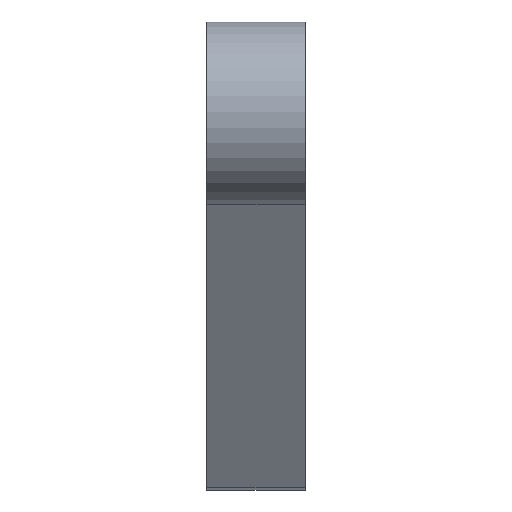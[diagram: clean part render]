
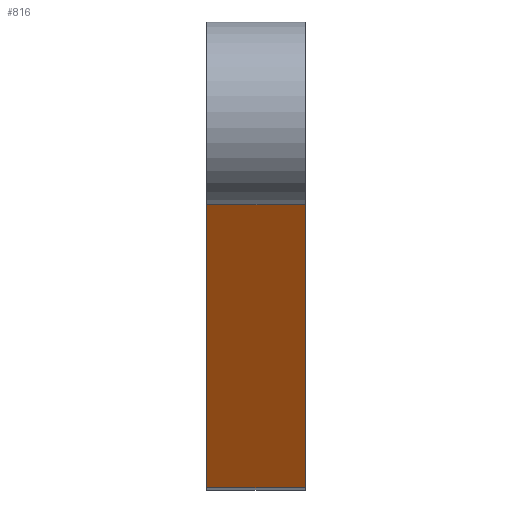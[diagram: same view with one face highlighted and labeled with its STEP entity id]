
A CAD part, left-side view. The second image highlights one B-rep face of the part: STEP entity #816.
In plain terms, the highlighted planar face has unit normal (-0.229, 0, -0.973).
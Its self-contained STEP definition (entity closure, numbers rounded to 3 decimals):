
#72 = PLANE('',#73);
#73 = AXIS2_PLACEMENT_3D('',#74,#75,#76);
#74 = CARTESIAN_POINT('',(127.929,-42.,166.997));
#75 = DIRECTION('',(0.,1.,0.));
#76 = DIRECTION('',(0.,-0.,1.));
#100 = CYLINDRICAL_SURFACE('',#101,7.5);
#101 = AXIS2_PLACEMENT_3D('',#102,#103,#104);
#102 = CARTESIAN_POINT('',(176.62,-42.,155.53));
#103 = DIRECTION('',(0.,1.,0.));
#104 = DIRECTION('',(0.,-0.,1.));
#126 = PLANE('',#127);
#127 = AXIS2_PLACEMENT_3D('',#128,#129,#130);
#128 = CARTESIAN_POINT('',(127.929,-34.,166.997));
#129 = DIRECTION('',(0.,1.,0.));
#130 = DIRECTION('',(0.,-0.,1.));
#186 = CYLINDRICAL_SURFACE('',#187,7.5);
#187 = AXIS2_PLACEMENT_3D('',#188,#189,#190);
#188 = CARTESIAN_POINT('',(79.239,-42.,178.463));
#189 = DIRECTION('',(0.,1.,0.));
#190 = DIRECTION('',(0.,-0.,1.));
#230 = VERTEX_POINT('',#231);
#231 = CARTESIAN_POINT('',(174.901,-34.,148.23));
#260 = VERTEX_POINT('',#261);
#261 = CARTESIAN_POINT('',(174.901,-42.,148.23));
#288 = EDGE_CURVE('',#230,#260,#289,.T.);
#289 = SURFACE_CURVE('',#290,(#294,#301),.PCURVE_S1.);
#290 = LINE('',#291,#292);
#291 = CARTESIAN_POINT('',(174.901,-34.,148.23));
#292 = VECTOR('',#293,1.);
#293 = DIRECTION('',(0.,-1.,0.));
#294 = PCURVE('',#100,#295);
#295 = DEFINITIONAL_REPRESENTATION('',(#296),#300);
#296 = LINE('',#297,#298);
#297 = CARTESIAN_POINT('',(3.373,8.));
#298 = VECTOR('',#299,1.);
#299 = DIRECTION('',(0.,-1.));
#300 = ( GEOMETRIC_REPRESENTATION_CONTEXT(2) 
PARAMETRIC_REPRESENTATION_CONTEXT() REPRESENTATION_CONTEXT('2D SPACE',''
  ) );
#301 = PCURVE('',#302,#307);
#302 = PLANE('',#303);
#303 = AXIS2_PLACEMENT_3D('',#304,#305,#306);
#304 = CARTESIAN_POINT('',(174.901,-34.,148.23));
#305 = DIRECTION('',(-0.229,-0.,-0.973));
#306 = DIRECTION('',(-0.973,0.,0.229));
#307 = DEFINITIONAL_REPRESENTATION('',(#308),#312);
#308 = LINE('',#309,#310);
#309 = CARTESIAN_POINT('',(0.,0.));
#310 = VECTOR('',#311,1.);
#311 = DIRECTION('',(0.,-1.));
#312 = ( GEOMETRIC_REPRESENTATION_CONTEXT(2) 
PARAMETRIC_REPRESENTATION_CONTEXT() REPRESENTATION_CONTEXT('2D SPACE',''
  ) );
#318 = VERTEX_POINT('',#319);
#319 = CARTESIAN_POINT('',(77.52,-34.,171.163));
#398 = EDGE_CURVE('',#230,#318,#399,.T.);
#399 = SURFACE_CURVE('',#400,(#404,#411),.PCURVE_S1.);
#400 = LINE('',#401,#402);
#401 = CARTESIAN_POINT('',(174.901,-34.,148.23));
#402 = VECTOR('',#403,1.);
#403 = DIRECTION('',(-0.973,0.,0.229));
#404 = PCURVE('',#126,#405);
#405 = DEFINITIONAL_REPRESENTATION('',(#406),#410);
#406 = LINE('',#407,#408);
#407 = CARTESIAN_POINT('',(-18.767,46.971));
#408 = VECTOR('',#409,1.);
#409 = DIRECTION('',(0.229,-0.973));
#410 = ( GEOMETRIC_REPRESENTATION_CONTEXT(2) 
PARAMETRIC_REPRESENTATION_CONTEXT() REPRESENTATION_CONTEXT('2D SPACE',''
  ) );
#411 = PCURVE('',#302,#412);
#412 = DEFINITIONAL_REPRESENTATION('',(#413),#417);
#413 = LINE('',#414,#415);
#414 = CARTESIAN_POINT('',(0.,0.));
#415 = VECTOR('',#416,1.);
#416 = DIRECTION('',(1.,0.));
#417 = ( GEOMETRIC_REPRESENTATION_CONTEXT(2) 
PARAMETRIC_REPRESENTATION_CONTEXT() REPRESENTATION_CONTEXT('2D SPACE',''
  ) );
#423 = VERTEX_POINT('',#424);
#424 = CARTESIAN_POINT('',(77.52,-42.,171.163));
#503 = EDGE_CURVE('',#260,#423,#504,.T.);
#504 = SURFACE_CURVE('',#505,(#509,#516),.PCURVE_S1.);
#505 = LINE('',#506,#507);
#506 = CARTESIAN_POINT('',(174.901,-42.,148.23));
#507 = VECTOR('',#508,1.);
#508 = DIRECTION('',(-0.973,0.,0.229));
#509 = PCURVE('',#72,#510);
#510 = DEFINITIONAL_REPRESENTATION('',(#511),#515);
#511 = LINE('',#512,#513);
#512 = CARTESIAN_POINT('',(-18.767,46.971));
#513 = VECTOR('',#514,1.);
#514 = DIRECTION('',(0.229,-0.973));
#515 = ( GEOMETRIC_REPRESENTATION_CONTEXT(2) 
PARAMETRIC_REPRESENTATION_CONTEXT() REPRESENTATION_CONTEXT('2D SPACE',''
  ) );
#516 = PCURVE('',#302,#517);
#517 = DEFINITIONAL_REPRESENTATION('',(#518),#522);
#518 = LINE('',#519,#520);
#519 = CARTESIAN_POINT('',(0.,-8.));
#520 = VECTOR('',#521,1.);
#521 = DIRECTION('',(1.,0.));
#522 = ( GEOMETRIC_REPRESENTATION_CONTEXT(2) 
PARAMETRIC_REPRESENTATION_CONTEXT() REPRESENTATION_CONTEXT('2D SPACE',''
  ) );
#770 = EDGE_CURVE('',#318,#423,#771,.T.);
#771 = SURFACE_CURVE('',#772,(#776,#783),.PCURVE_S1.);
#772 = LINE('',#773,#774);
#773 = CARTESIAN_POINT('',(77.52,-34.,171.163));
#774 = VECTOR('',#775,1.);
#775 = DIRECTION('',(0.,-1.,0.));
#776 = PCURVE('',#186,#777);
#777 = DEFINITIONAL_REPRESENTATION('',(#778),#782);
#778 = LINE('',#779,#780);
#779 = CARTESIAN_POINT('',(3.373,8.));
#780 = VECTOR('',#781,1.);
#781 = DIRECTION('',(0.,-1.));
#782 = ( GEOMETRIC_REPRESENTATION_CONTEXT(2) 
PARAMETRIC_REPRESENTATION_CONTEXT() REPRESENTATION_CONTEXT('2D SPACE',''
  ) );
#783 = PCURVE('',#302,#784);
#784 = DEFINITIONAL_REPRESENTATION('',(#785),#789);
#785 = LINE('',#786,#787);
#786 = CARTESIAN_POINT('',(100.045,0.));
#787 = VECTOR('',#788,1.);
#788 = DIRECTION('',(0.,-1.));
#789 = ( GEOMETRIC_REPRESENTATION_CONTEXT(2) 
PARAMETRIC_REPRESENTATION_CONTEXT() REPRESENTATION_CONTEXT('2D SPACE',''
  ) );
#816 = ADVANCED_FACE('',(#817),#302,.T.);
#817 = FACE_BOUND('',#818,.T.);
#818 = EDGE_LOOP('',(#819,#820,#821,#822));
#819 = ORIENTED_EDGE('',*,*,#288,.T.);
#820 = ORIENTED_EDGE('',*,*,#503,.T.);
#821 = ORIENTED_EDGE('',*,*,#770,.F.);
#822 = ORIENTED_EDGE('',*,*,#398,.F.);
